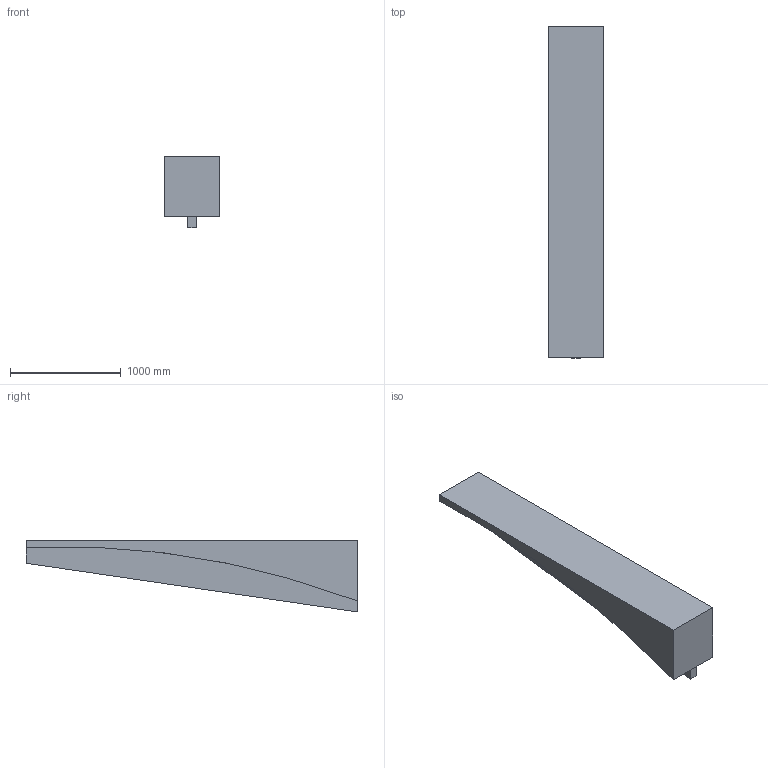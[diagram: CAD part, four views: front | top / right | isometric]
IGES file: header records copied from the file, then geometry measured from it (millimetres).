
Global section: file name: B_Ex_10_1; native system: AutoCAD 2020 - English; preprocessor: Autodesk Translation Framework DWG producer (atf_dwg_producer); organization: unknown; date: 20191114.162956; units: millimetre
Bounding box: 500 x 3000 x 650 mm (x, y, z)
Volume: 359287912 mm3; surface area: 6951759.6 mm2
Topology: 2 solids, 2 shells, 17 faces, 50 edges, 42 vertices
Faces by surface type: bspline 17
